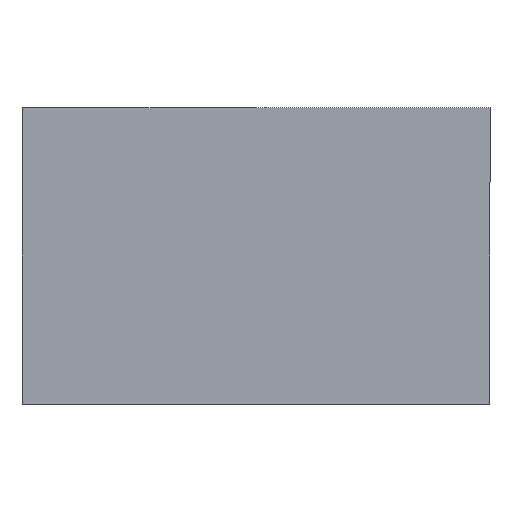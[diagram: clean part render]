
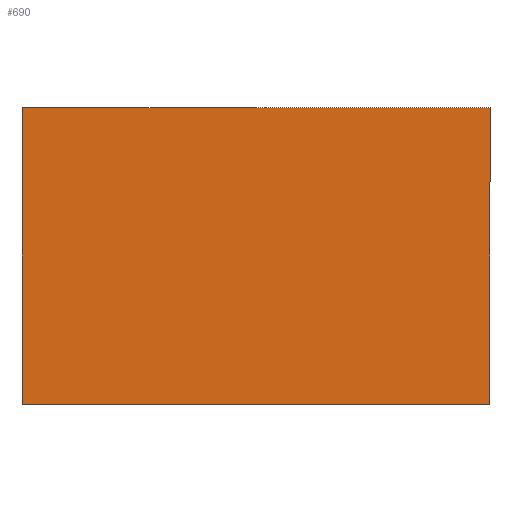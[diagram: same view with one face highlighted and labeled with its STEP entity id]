
A CAD part, front view. The second image highlights one B-rep face of the part: STEP entity #690.
In plain terms, the highlighted planar face has unit normal (0, -1, 0).
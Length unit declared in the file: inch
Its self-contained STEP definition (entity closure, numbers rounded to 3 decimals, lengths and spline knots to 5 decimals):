
#240 = EDGE_CURVE ( 'NONE', #1491, #309, #6135, .T. ) ;
#309 = VERTEX_POINT ( 'NONE', #1995 ) ;
#416 = VECTOR ( 'NONE', #4813, 39.37008 ) ;
#655 = CARTESIAN_POINT ( 'NONE',  ( -15.0681, -9.5, -9.54665 ) ) ;
#690 = ADVANCED_FACE ( 'NONE', ( #5291 ), #1194, .F. ) ;
#906 = CARTESIAN_POINT ( 'NONE',  ( 15.0681, -9.5, -9.54665 ) ) ;
#1034 = ORIENTED_EDGE ( 'NONE', *, *, #240, .F. ) ;
#1194 = PLANE ( 'NONE',  #6335 ) ;
#1429 = EDGE_CURVE ( 'NONE', #4826, #1491, #5811, .T. ) ;
#1457 = DIRECTION ( 'NONE',  ( 0., 1., 0. ) ) ;
#1491 = VERTEX_POINT ( 'NONE', #1975 ) ;
#1717 = DIRECTION ( 'NONE',  ( 0., 0., 1. ) ) ;
#1975 = CARTESIAN_POINT ( 'NONE',  ( -15.0681, -9.5, 9.54665 ) ) ;
#1995 = CARTESIAN_POINT ( 'NONE',  ( 15.0681, -9.5, 9.54665 ) ) ;
#2130 = LINE ( 'NONE', #4959, #3290 ) ;
#2530 = CARTESIAN_POINT ( 'NONE',  ( -15.0681, -9.5, 9.54665 ) ) ;
#2883 = ORIENTED_EDGE ( 'NONE', *, *, #4521, .F. ) ;
#3243 = VECTOR ( 'NONE', #6336, 39.37008 ) ;
#3290 = VECTOR ( 'NONE', #3491, 39.37008 ) ;
#3491 = DIRECTION ( 'NONE',  ( 0., 0., -1. ) ) ;
#3505 = DIRECTION ( 'NONE',  ( 1., 0., 0. ) ) ;
#3541 = VECTOR ( 'NONE', #3505, 39.37008 ) ;
#4045 = ORIENTED_EDGE ( 'NONE', *, *, #6115, .F. ) ;
#4323 = CARTESIAN_POINT ( 'NONE',  ( -15.0681, -9.5, -9.54665 ) ) ;
#4350 = LINE ( 'NONE', #4323, #416 ) ;
#4521 = EDGE_CURVE ( 'NONE', #309, #4874, #2130, .T. ) ;
#4813 = DIRECTION ( 'NONE',  ( -1., 0., 0. ) ) ;
#4826 = VERTEX_POINT ( 'NONE', #5757 ) ;
#4874 = VERTEX_POINT ( 'NONE', #906 ) ;
#4959 = CARTESIAN_POINT ( 'NONE',  ( 15.0681, -9.5, -9.54665 ) ) ;
#5291 = FACE_OUTER_BOUND ( 'NONE', #5772, .T. ) ;
#5757 = CARTESIAN_POINT ( 'NONE',  ( -15.0681, -9.5, -9.54665 ) ) ;
#5772 = EDGE_LOOP ( 'NONE', ( #6232, #4045, #2883, #1034 ) ) ;
#5811 = LINE ( 'NONE', #5835, #3243 ) ;
#5835 = CARTESIAN_POINT ( 'NONE',  ( -15.0681, -9.5, -9.54665 ) ) ;
#6115 = EDGE_CURVE ( 'NONE', #4874, #4826, #4350, .T. ) ;
#6135 = LINE ( 'NONE', #2530, #3541 ) ;
#6232 = ORIENTED_EDGE ( 'NONE', *, *, #1429, .F. ) ;
#6335 = AXIS2_PLACEMENT_3D ( 'NONE', #655, #1457, #1717 ) ;
#6336 = DIRECTION ( 'NONE',  ( 0., 0., 1. ) ) ;
